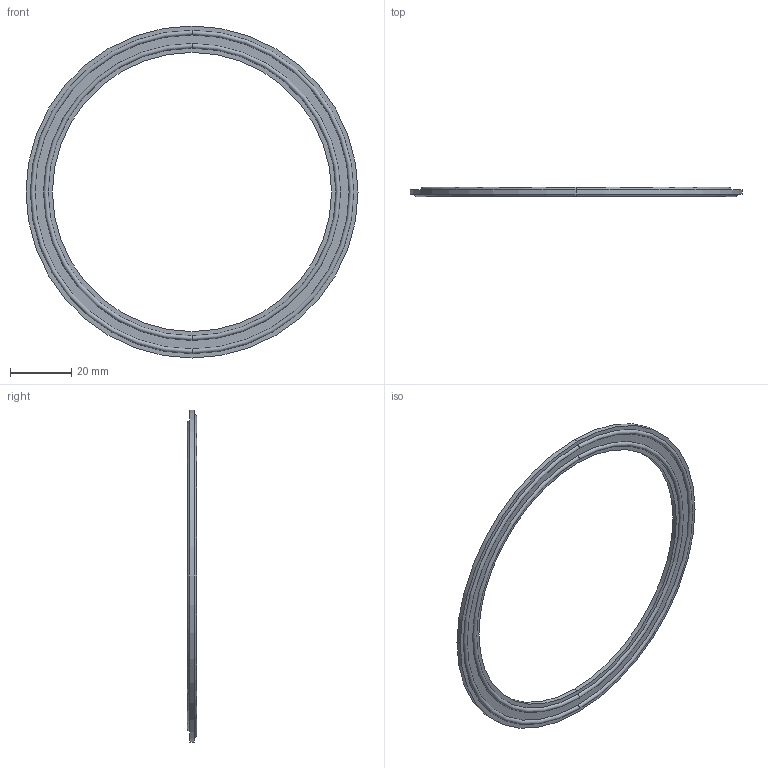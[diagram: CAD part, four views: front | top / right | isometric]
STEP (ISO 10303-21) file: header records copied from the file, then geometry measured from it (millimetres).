
FILE_DESCRIPTION (( 'STEP AP214' ), '1' );
FILE_NAME ('P-01003 - Sink Mount Drain Gasket TOP - v2.1.2.STEP', '2026-06-12T21:55:05', ( '' ), ( '' ), 'SwSTEP 2.0', 'SolidWorks 2023', '' );
FILE_SCHEMA (( 'AUTOMOTIVE_DESIGN' ));
Length unit declared in the file: inch
Products named in the file (1): P-01003 - Sink Mount Drain Gasket TOP - v2.1.2
Bounding box: 108 x 3 x 108 mm (x, y, z)
Volume: 4856.1 mm3; surface area: 7110 mm2
Topology: 1 solids, 1 shells, 15 faces, 30 edges, 20 vertices
Faces by surface type: torus 6, plane 5, cylinder 4
Entity records: 441 total; most frequent: DIRECTION 88, CARTESIAN_POINT 66, ORIENTED_EDGE 60, AXIS2_PLACEMENT_3D 42, EDGE_CURVE 30, CIRCLE 26, VERTEX_POINT 20, EDGE_LOOP 20
